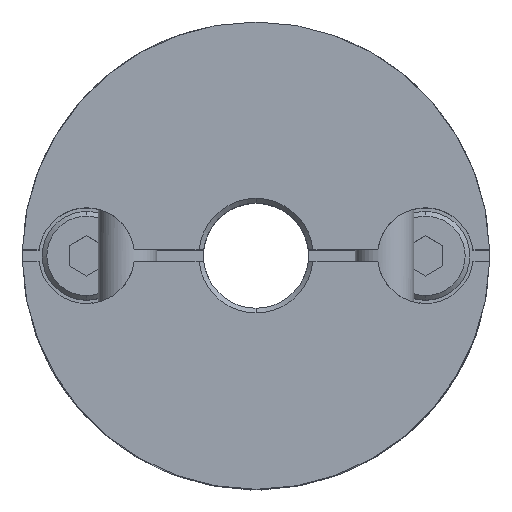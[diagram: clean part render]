
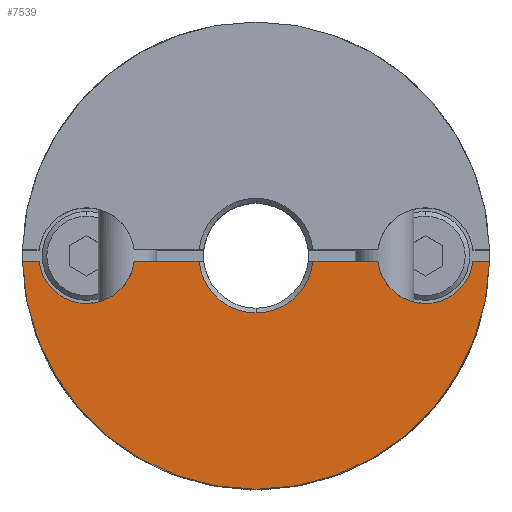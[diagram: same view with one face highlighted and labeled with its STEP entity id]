
A CAD part, top view. The second image highlights one B-rep face of the part: STEP entity #7539.
In plain terms, the highlighted planar face has unit normal (0, 0, 1).
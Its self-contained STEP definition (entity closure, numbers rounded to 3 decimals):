
#809=CARTESIAN_POINT('',(0.,-10.,9.4));
#810=VERTEX_POINT('',#809);
#817=CARTESIAN_POINT('',(-9.997,-0.25,9.4));
#818=VERTEX_POINT('',#817);
#819=CARTESIAN_POINT('',(0.,0.,9.4));
#820=DIRECTION('',(0.0,0.0,-1.0));
#821=DIRECTION('',(0.0,1.0,0.0));
#822=AXIS2_PLACEMENT_3D('',#819,#820,#821);
#823=CIRCLE('',#822,10.0);
#824=EDGE_CURVE('',#810,#818,#823,.T.);
#1024=CARTESIAN_POINT('',(0.,-2.45,9.4));
#1025=VERTEX_POINT('',#1024);
#1033=CARTESIAN_POINT('',(-2.437,-0.25,9.4));
#1034=VERTEX_POINT('',#1033);
#1048=CARTESIAN_POINT('',(0.,0.,9.4));
#1049=DIRECTION('',(0.0,0.0,1.0));
#1050=DIRECTION('',(0.0,-1.0,0.0));
#1051=AXIS2_PLACEMENT_3D('',#1048,#1049,#1050);
#1052=CIRCLE('',#1051,2.45);
#1053=EDGE_CURVE('',#1034,#1025,#1052,.T.);
#1345=CARTESIAN_POINT('',(-7.25,-2.05,9.4));
#1346=VERTEX_POINT('',#1345);
#1362=CARTESIAN_POINT('',(-9.285,-0.25,9.4));
#1363=VERTEX_POINT('',#1362);
#1370=CARTESIAN_POINT('',(-7.25,0.,9.4));
#1371=DIRECTION('',(0.0,0.0,-1.0));
#1372=DIRECTION('',(0.0,1.0,0.0));
#1373=AXIS2_PLACEMENT_3D('',#1370,#1371,#1372);
#1374=CIRCLE('',#1373,2.05);
#1375=EDGE_CURVE('',#1346,#1363,#1374,.T.);
#1693=CARTESIAN_POINT('',(7.25,-2.05,9.4));
#1694=VERTEX_POINT('',#1693);
#1772=CARTESIAN_POINT('',(5.215,-0.25,9.4));
#1773=VERTEX_POINT('',#1772);
#1780=CARTESIAN_POINT('',(7.25,0.,9.4));
#1781=DIRECTION('',(0.0,0.0,-1.0));
#1782=DIRECTION('',(0.0,1.0,0.0));
#1783=AXIS2_PLACEMENT_3D('',#1780,#1781,#1782);
#1784=CIRCLE('',#1783,2.05);
#1785=EDGE_CURVE('',#1694,#1773,#1784,.T.);
#5992=CARTESIAN_POINT('',(9.285,-0.25,9.4));
#5993=VERTEX_POINT('',#5992);
#5994=CARTESIAN_POINT('',(7.25,0.,9.4));
#5995=DIRECTION('',(0.0,0.0,-1.0));
#5996=DIRECTION('',(0.0,1.0,0.0));
#5997=AXIS2_PLACEMENT_3D('',#5994,#5995,#5996);
#5998=CIRCLE('',#5997,2.05);
#5999=EDGE_CURVE('',#5993,#1694,#5998,.T.);
#6444=CARTESIAN_POINT('',(-5.215,-0.25,9.4));
#6445=VERTEX_POINT('',#6444);
#6446=CARTESIAN_POINT('',(-7.25,0.,9.4));
#6447=DIRECTION('',(0.0,0.0,-1.0));
#6448=DIRECTION('',(0.0,1.0,0.0));
#6449=AXIS2_PLACEMENT_3D('',#6446,#6447,#6448);
#6450=CIRCLE('',#6449,2.05);
#6451=EDGE_CURVE('',#6445,#1346,#6450,.T.);
#6574=CARTESIAN_POINT('',(-2.437,-0.25,9.4));
#6575=DIRECTION('',(-1.0,0.0,0.0));
#6576=VECTOR('',#6575,2.778);
#6577=LINE('',#6574,#6576);
#6578=EDGE_CURVE('',#1034,#6445,#6577,.T.);
#6642=CARTESIAN_POINT('',(2.437,-0.25,9.4));
#6643=VERTEX_POINT('',#6642);
#6657=CARTESIAN_POINT('',(5.215,-0.25,9.4));
#6658=DIRECTION('',(-1.0,0.0,0.0));
#6659=VECTOR('',#6658,2.778);
#6660=LINE('',#6657,#6659);
#6661=EDGE_CURVE('',#1773,#6643,#6660,.T.);
#7317=CARTESIAN_POINT('',(9.997,-0.25,9.4));
#7318=VERTEX_POINT('',#7317);
#7319=CARTESIAN_POINT('',(9.997,-0.25,9.4));
#7320=DIRECTION('',(-1.0,0.0,0.0));
#7321=VECTOR('',#7320,0.712);
#7322=LINE('',#7319,#7321);
#7323=EDGE_CURVE('',#7318,#5993,#7322,.T.);
#7423=CARTESIAN_POINT('',(-9.285,-0.25,9.4));
#7424=DIRECTION('',(-1.0,0.0,0.0));
#7425=VECTOR('',#7424,0.712);
#7426=LINE('',#7423,#7425);
#7427=EDGE_CURVE('',#1363,#818,#7426,.T.);
#7508=CARTESIAN_POINT('',(0.,0.909,9.4));
#7509=DIRECTION('',(0.0,0.0,1.0));
#7510=DIRECTION('',(0.0,1.0,0.0));
#7511=AXIS2_PLACEMENT_3D('',#7508,#7509,#7510);
#7512=PLANE('',#7511);
#7513=ORIENTED_EDGE('',*,*,#5999,.T.);
#7514=ORIENTED_EDGE('',*,*,#1785,.T.);
#7515=ORIENTED_EDGE('',*,*,#6661,.T.);
#7516=CARTESIAN_POINT('',(0.,0.,9.4));
#7517=DIRECTION('',(0.0,0.0,1.0));
#7518=DIRECTION('',(0.0,-1.0,0.0));
#7519=AXIS2_PLACEMENT_3D('',#7516,#7517,#7518);
#7520=CIRCLE('',#7519,2.45);
#7521=EDGE_CURVE('',#1025,#6643,#7520,.T.);
#7522=ORIENTED_EDGE('',*,*,#7521,.F.);
#7523=ORIENTED_EDGE('',*,*,#1053,.F.);
#7524=ORIENTED_EDGE('',*,*,#6578,.T.);
#7525=ORIENTED_EDGE('',*,*,#6451,.T.);
#7526=ORIENTED_EDGE('',*,*,#1375,.T.);
#7527=ORIENTED_EDGE('',*,*,#7427,.T.);
#7528=ORIENTED_EDGE('',*,*,#824,.F.);
#7529=CARTESIAN_POINT('',(0.,0.,9.4));
#7530=DIRECTION('',(0.0,0.0,-1.0));
#7531=DIRECTION('',(0.0,1.0,0.0));
#7532=AXIS2_PLACEMENT_3D('',#7529,#7530,#7531);
#7533=CIRCLE('',#7532,10.0);
#7534=EDGE_CURVE('',#7318,#810,#7533,.T.);
#7535=ORIENTED_EDGE('',*,*,#7534,.F.);
#7536=ORIENTED_EDGE('',*,*,#7323,.T.);
#7537=EDGE_LOOP('',(#7513,#7514,#7515,#7522,#7523,#7524,#7525,#7526,#7527,#7528,#7535,#7536));
#7538=FACE_OUTER_BOUND('',#7537,.T.);
#7539=ADVANCED_FACE('',(#7538),#7512,.T.);
